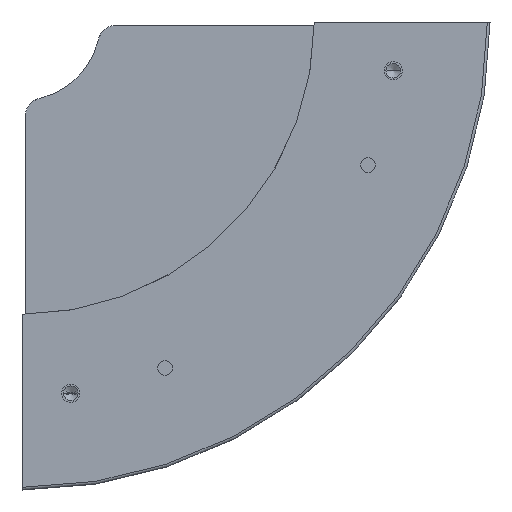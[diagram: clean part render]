
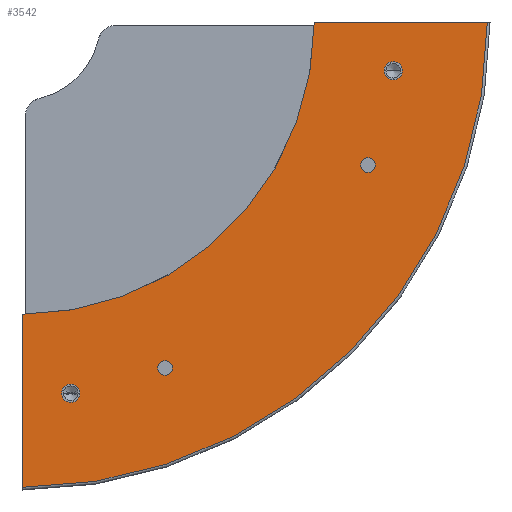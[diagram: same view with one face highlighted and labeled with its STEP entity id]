
A CAD part, front view. The second image highlights one B-rep face of the part: STEP entity #3542.
In plain terms, the highlighted planar face has unit normal (0, -1, 0).
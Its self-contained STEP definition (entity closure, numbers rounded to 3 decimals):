
#213=CARTESIAN_POINT('',(0.,-30.573,0.));
#214=DIRECTION('',(0.,1.,0.));
#215=DIRECTION('',(1.,0.,-0.001));
#216=AXIS2_PLACEMENT_3D('',#213,#214,#215);
#248=DIRECTION('',(0.,0.,1.));
#249=VECTOR('',#248,94.65);
#250=CARTESIAN_POINT('',(0.12,-30.573,-254.65));
#251=LINE('',#250,#249);
#252=DIRECTION('',(-1.,0.,0.));
#253=VECTOR('',#252,94.65);
#254=CARTESIAN_POINT('',(254.65,-30.573,-0.12));
#255=LINE('',#254,#253);
#256=CARTESIAN_POINT('',(0.,-30.573,0.));
#257=DIRECTION('',(0.,1.,0.));
#258=DIRECTION('',(1.,0.,0.));
#259=AXIS2_PLACEMENT_3D('',#256,#257,#258);
#261=CARTESIAN_POINT('',(203.246,-30.573,-26.758));
#262=DIRECTION('',(0.,-1.,0.));
#263=DIRECTION('',(-1.,0.,0.));
#264=AXIS2_PLACEMENT_3D('',#261,#262,#263);
#266=CARTESIAN_POINT('',(203.246,-30.573,-26.758));
#267=DIRECTION('',(0.,-1.,0.));
#268=DIRECTION('',(1.,0.,0.));
#269=AXIS2_PLACEMENT_3D('',#266,#267,#268);
#271=CARTESIAN_POINT('',(26.758,-30.573,-203.246));
#272=DIRECTION('',(0.,-1.,0.));
#273=DIRECTION('',(-1.,0.,0.));
#274=AXIS2_PLACEMENT_3D('',#271,#272,#273);
#276=CARTESIAN_POINT('',(26.758,-30.573,-203.246));
#277=DIRECTION('',(0.,-1.,0.));
#278=DIRECTION('',(1.,0.,0.));
#279=AXIS2_PLACEMENT_3D('',#276,#277,#278);
#281=CARTESIAN_POINT('',(78.45,-30.573,-189.395));
#282=DIRECTION('',(0.,1.,0.));
#283=DIRECTION('',(-1.,0.,0.));
#284=AXIS2_PLACEMENT_3D('',#281,#282,#283);
#286=CARTESIAN_POINT('',(78.45,-30.573,-189.395));
#287=DIRECTION('',(0.,1.,0.));
#288=DIRECTION('',(1.,0.,0.));
#289=AXIS2_PLACEMENT_3D('',#286,#287,#288);
#291=CARTESIAN_POINT('',(189.395,-30.573,-78.45));
#292=DIRECTION('',(0.,1.,0.));
#293=DIRECTION('',(-1.,0.,0.));
#294=AXIS2_PLACEMENT_3D('',#291,#292,#293);
#296=CARTESIAN_POINT('',(189.395,-30.573,-78.45));
#297=DIRECTION('',(0.,1.,0.));
#298=DIRECTION('',(1.,0.,0.));
#299=AXIS2_PLACEMENT_3D('',#296,#297,#298);
#2711=CARTESIAN_POINT('',(254.65,-30.573,-0.12));
#2712=CARTESIAN_POINT('',(160.,-30.573,-0.12));
#2713=VERTEX_POINT('',#2711);
#2714=VERTEX_POINT('',#2712);
#2741=CARTESIAN_POINT('',(0.12,-30.573,-254.65));
#2742=CARTESIAN_POINT('',(0.12,-30.573,-160.));
#2743=VERTEX_POINT('',#2741);
#2744=VERTEX_POINT('',#2742);
#2817=CARTESIAN_POINT('',(198.246,-30.573,-26.758));
#2818=VERTEX_POINT('',#2817);
#2819=CARTESIAN_POINT('',(208.246,-30.573,-26.758));
#2820=VERTEX_POINT('',#2819);
#2835=CARTESIAN_POINT('',(21.758,-30.573,-203.246));
#2836=VERTEX_POINT('',#2835);
#2837=CARTESIAN_POINT('',(31.758,-30.573,-203.246));
#2838=VERTEX_POINT('',#2837);
#2843=CARTESIAN_POINT('',(82.45,-30.573,-189.395));
#2844=VERTEX_POINT('',#2843);
#2845=CARTESIAN_POINT('',(74.45,-30.573,-189.395));
#2846=VERTEX_POINT('',#2845);
#2851=CARTESIAN_POINT('',(193.395,-30.573,-78.45));
#2852=VERTEX_POINT('',#2851);
#2853=CARTESIAN_POINT('',(185.395,-30.573,-78.45));
#2854=VERTEX_POINT('',#2853);
#3505=CARTESIAN_POINT('',(0.,-30.573,0.));
#3506=DIRECTION('',(0.,1.,0.));
#3507=DIRECTION('',(-1.,0.,0.));
#3508=AXIS2_PLACEMENT_3D('',#3505,#3506,#3507);
#3509=PLANE('',#3508);
#3510=ORIENTED_EDGE('',*,*,#3478,.T.);
#3511=ORIENTED_EDGE('',*,*,#3435,.F.);
#3513=ORIENTED_EDGE('',*,*,#3512,.F.);
#3515=ORIENTED_EDGE('',*,*,#3514,.T.);
#3516=EDGE_LOOP('',(#3510,#3511,#3513,#3515));
#3517=FACE_OUTER_BOUND('',#3516,.F.);
#3519=ORIENTED_EDGE('',*,*,#3518,.T.);
#3521=ORIENTED_EDGE('',*,*,#3520,.T.);
#3522=EDGE_LOOP('',(#3519,#3521));
#3523=FACE_BOUND('',#3522,.F.);
#3525=ORIENTED_EDGE('',*,*,#3524,.T.);
#3527=ORIENTED_EDGE('',*,*,#3526,.T.);
#3528=EDGE_LOOP('',(#3525,#3527));
#3529=FACE_BOUND('',#3528,.F.);
#3531=ORIENTED_EDGE('',*,*,#3530,.F.);
#3533=ORIENTED_EDGE('',*,*,#3532,.F.);
#3534=EDGE_LOOP('',(#3531,#3533));
#3535=FACE_BOUND('',#3534,.F.);
#3537=ORIENTED_EDGE('',*,*,#3536,.F.);
#3539=ORIENTED_EDGE('',*,*,#3538,.F.);
#3540=EDGE_LOOP('',(#3537,#3539));
#3541=FACE_BOUND('',#3540,.F.);
#3542=ADVANCED_FACE('',(#3517,#3523,#3529,#3535,#3541),#3509,.F.);
#217=CIRCLE('',#216,160.);
#260=CIRCLE('',#259,254.65);
#265=CIRCLE('',#264,5.);
#270=CIRCLE('',#269,5.);
#275=CIRCLE('',#274,5.);
#280=CIRCLE('',#279,5.);
#285=CIRCLE('',#284,4.);
#290=CIRCLE('',#289,4.);
#295=CIRCLE('',#294,4.);
#300=CIRCLE('',#299,4.);
#3435=EDGE_CURVE('',#2714,#2744,#217,.T.);
#3478=EDGE_CURVE('',#2743,#2744,#251,.T.);
#3512=EDGE_CURVE('',#2713,#2714,#255,.T.);
#3514=EDGE_CURVE('',#2713,#2743,#260,.T.);
#3518=EDGE_CURVE('',#2818,#2820,#265,.T.);
#3520=EDGE_CURVE('',#2820,#2818,#270,.T.);
#3524=EDGE_CURVE('',#2836,#2838,#275,.T.);
#3526=EDGE_CURVE('',#2838,#2836,#280,.T.);
#3530=EDGE_CURVE('',#2846,#2844,#285,.T.);
#3532=EDGE_CURVE('',#2844,#2846,#290,.T.);
#3536=EDGE_CURVE('',#2854,#2852,#295,.T.);
#3538=EDGE_CURVE('',#2852,#2854,#300,.T.);
